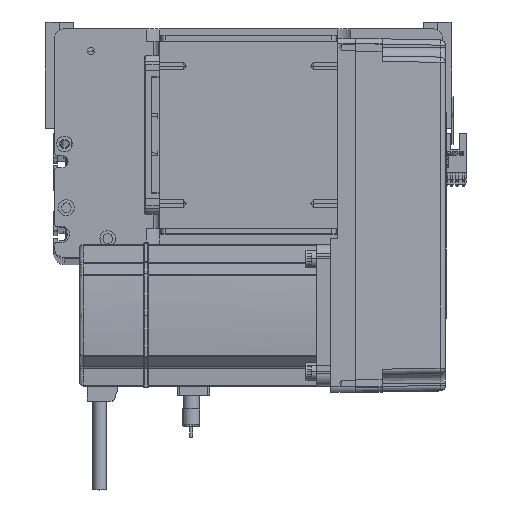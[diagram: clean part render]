
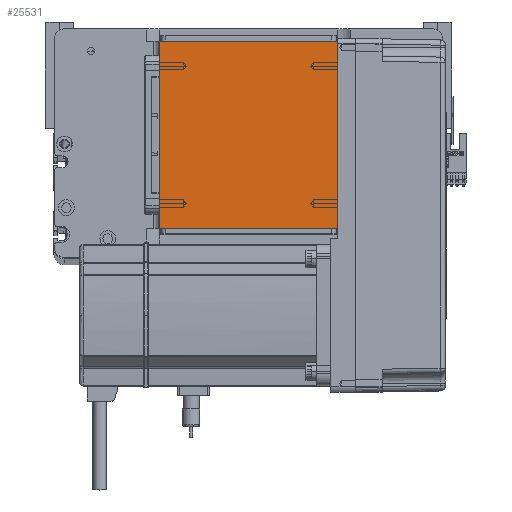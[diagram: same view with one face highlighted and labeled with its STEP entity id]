
A CAD part, top view. The second image highlights one B-rep face of the part: STEP entity #25531.
In plain terms, the highlighted planar face has unit normal (0, 0, 1).
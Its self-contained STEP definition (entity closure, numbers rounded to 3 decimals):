
#453 = ORIENTED_EDGE ( 'NONE', *, *, #39717, .T. ) ;
#2346 = LINE ( 'NONE', #40696, #20230 ) ;
#3206 = VERTEX_POINT ( 'NONE', #32670 ) ;
#4256 = ORIENTED_EDGE ( 'NONE', *, *, #35272, .T. ) ;
#5604 = ORIENTED_EDGE ( 'NONE', *, *, #7839, .T. ) ;
#6380 = CARTESIAN_POINT ( 'NONE',  ( 50.5, 122., 115. ) ) ;
#6427 = EDGE_CURVE ( 'NONE', #24721, #41128, #37622, .T. ) ;
#7839 = EDGE_CURVE ( 'NONE', #29419, #3206, #2346, .T. ) ;
#8386 = CARTESIAN_POINT ( 'NONE',  ( 50.5, 122., 115. ) ) ;
#10539 = AXIS2_PLACEMENT_3D ( 'NONE', #26837, #35210, #47943 ) ;
#11907 = VECTOR ( 'NONE', #19159, 1000. ) ;
#12776 = ORIENTED_EDGE ( 'NONE', *, *, #6427, .T. ) ;
#19159 = DIRECTION ( 'NONE',  ( 1., 0., 0. ) ) ;
#20230 = VECTOR ( 'NONE', #45499, 1000. ) ;
#24721 = VERTEX_POINT ( 'NONE', #31221 ) ;
#24891 = VECTOR ( 'NONE', #50399, 1000. ) ;
#25531 = ADVANCED_FACE ( 'NONE', ( #37192 ), #48136, .T. ) ;
#26029 = EDGE_LOOP ( 'NONE', ( #5604, #453, #12776, #4256 ) ) ;
#26837 = CARTESIAN_POINT ( 'NONE',  ( 0., 0., 115. ) ) ;
#29419 = VERTEX_POINT ( 'NONE', #53867 ) ;
#31221 = CARTESIAN_POINT ( 'NONE',  ( 50.5, 16., 115. ) ) ;
#31718 = CARTESIAN_POINT ( 'NONE',  ( -50.5, 16., 115. ) ) ;
#32175 = LINE ( 'NONE', #42095, #24891 ) ;
#32670 = CARTESIAN_POINT ( 'NONE',  ( -50.5, 16., 115. ) ) ;
#35048 = LINE ( 'NONE', #31718, #11907 ) ;
#35210 = DIRECTION ( 'NONE',  ( 0., 0., 1. ) ) ;
#35272 = EDGE_CURVE ( 'NONE', #41128, #29419, #32175, .T. ) ;
#37192 = FACE_OUTER_BOUND ( 'NONE', #26029, .T. ) ;
#37622 = LINE ( 'NONE', #8386, #43576 ) ;
#39717 = EDGE_CURVE ( 'NONE', #3206, #24721, #35048, .T. ) ;
#40696 = CARTESIAN_POINT ( 'NONE',  ( -50.5, 122., 115. ) ) ;
#41128 = VERTEX_POINT ( 'NONE', #6380 ) ;
#42095 = CARTESIAN_POINT ( 'NONE',  ( -50.5, 122., 115. ) ) ;
#43576 = VECTOR ( 'NONE', #54817, 1000. ) ;
#45499 = DIRECTION ( 'NONE',  ( 0., -1., 0. ) ) ;
#47943 = DIRECTION ( 'NONE',  ( 1., 0., 0. ) ) ;
#48136 = PLANE ( 'NONE',  #10539 ) ;
#50399 = DIRECTION ( 'NONE',  ( -1., 0., 0. ) ) ;
#53867 = CARTESIAN_POINT ( 'NONE',  ( -50.5, 122., 115. ) ) ;
#54817 = DIRECTION ( 'NONE',  ( 0., 1., 0. ) ) ;
